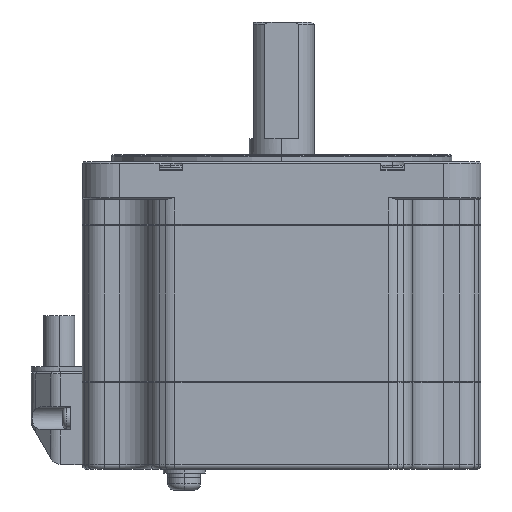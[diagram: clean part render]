
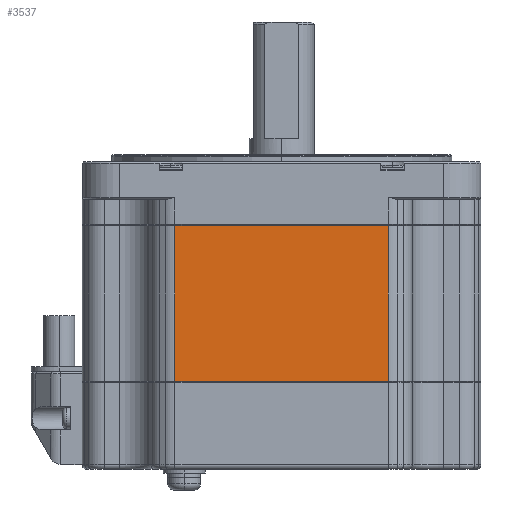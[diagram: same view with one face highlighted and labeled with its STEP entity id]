
A CAD part, left-side view. The second image highlights one B-rep face of the part: STEP entity #3537.
In plain terms, the highlighted planar face has unit normal (-1, 0, 0).
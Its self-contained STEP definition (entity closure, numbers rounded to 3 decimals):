
#58 = AXIS2_PLACEMENT_3D ( 'NONE', #7749, #7750, #7751 ) ;
#2415 = EDGE_CURVE ( 'NONE', #18421, #18433, #21869, .T. ) ;
#2416 = EDGE_CURVE ( 'NONE', #18426, #18433, #21868, .T. ) ;
#2417 = EDGE_CURVE ( 'NONE', #18426, #18418, #21867, .T. ) ;
#2419 = EDGE_CURVE ( 'NONE', #18418, #18421, #21866, .T. ) ;
#3537 = ADVANCED_FACE ( 'NONE', ( #13588 ), #7748, .F. ) ;
#5522 = ORIENTED_EDGE ( 'NONE', *, *, #2415, .T. ) ;
#5523 = ORIENTED_EDGE ( 'NONE', *, *, #2417, .T. ) ;
#5524 = ORIENTED_EDGE ( 'NONE', *, *, #2419, .T. ) ;
#5525 = ORIENTED_EDGE ( 'NONE', *, *, #2416, .F. ) ;
#7748 = PLANE ( 'NONE',  #58 ) ;
#7749 = CARTESIAN_POINT ( 'NONE',  ( -42.75, 22.879, -47.3 ) ) ;
#7750 = DIRECTION ( 'NONE',  ( 1., 0., 0. ) ) ;
#7751 = DIRECTION ( 'NONE',  ( 0., 0., -1. ) ) ;
#12619 = EDGE_LOOP ( 'NONE', ( #5525, #5523, #5524, #5522 ) ) ;
#13588 = FACE_OUTER_BOUND ( 'NONE', #12619, .T. ) ;
#13931 = CARTESIAN_POINT ( 'NONE',  ( -42.75, 22.879, -13.7 ) ) ;
#13932 = DIRECTION ( 'NONE',  ( 0., 1., 0. ) ) ;
#13933 = CARTESIAN_POINT ( 'NONE',  ( -42.75, 22.879, -47.3 ) ) ;
#13934 = DIRECTION ( 'NONE',  ( 0., 0., 1. ) ) ;
#13935 = CARTESIAN_POINT ( 'NONE',  ( -42.75, 22.879, -47.1 ) ) ;
#13936 = DIRECTION ( 'NONE',  ( 0., -1., 0. ) ) ;
#13940 = CARTESIAN_POINT ( 'NONE',  ( -42.75, -22.879, -47.3 ) ) ;
#13941 = DIRECTION ( 'NONE',  ( 0., 0., 1. ) ) ;
#16400 = CARTESIAN_POINT ( 'NONE',  ( -42.75, -22.879, -47.1 ) ) ;
#16403 = CARTESIAN_POINT ( 'NONE',  ( -42.75, -22.879, -13.7 ) ) ;
#16408 = CARTESIAN_POINT ( 'NONE',  ( -42.75, 22.879, -47.1 ) ) ;
#16415 = CARTESIAN_POINT ( 'NONE',  ( -42.75, 22.879, -13.7 ) ) ;
#18418 = VERTEX_POINT ( 'NONE', #16400 ) ;
#18421 = VERTEX_POINT ( 'NONE', #16403 ) ;
#18426 = VERTEX_POINT ( 'NONE', #16408 ) ;
#18433 = VERTEX_POINT ( 'NONE', #16415 ) ;
#20247 = VECTOR ( 'NONE', #13941, 1000. ) ;
#20250 = VECTOR ( 'NONE', #13936, 1000. ) ;
#20252 = VECTOR ( 'NONE', #13934, 1000. ) ;
#20253 = VECTOR ( 'NONE', #13932, 1000. ) ;
#21866 = LINE ( 'NONE', #13940, #20247 ) ;
#21867 = LINE ( 'NONE', #13935, #20250 ) ;
#21868 = LINE ( 'NONE', #13933, #20252 ) ;
#21869 = LINE ( 'NONE', #13931, #20253 ) ;
